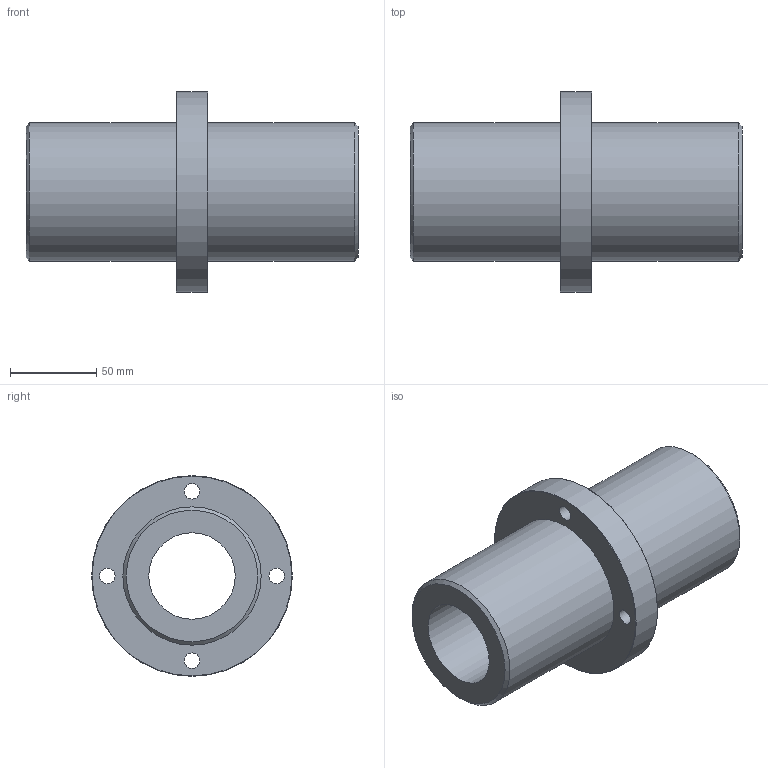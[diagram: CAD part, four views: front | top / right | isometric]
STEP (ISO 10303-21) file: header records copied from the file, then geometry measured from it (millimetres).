
FILE_DESCRIPTION(('STEP AP203'),'1');
FILE_NAME('//192.168.1.1/share/s-4 技術開発/s-4-4_CAD/s-4-4-3_見直し済み/PBC LINEAR修正済み/CFPJ/CFPJ_TOP/CFPJR/CFPJR50.step','2022-03-24T04:13:46',(' '),(' '),'Spatial InterOp 3D',' ',' ');
FILE_SCHEMA(('CONFIG_CONTROL_DESIGN'));
Length unit declared in the file: millimetre
Products named in the file (1): 1
Bounding box: 192 x 116 x 116 mm (x, y, z)
Volume: 679339.1 mm3; surface area: 98987.4 mm2
Topology: 1 solids, 1 shells, 24 faces, 50 edges, 34 vertices
Faces by surface type: cylinder 12, plane 8, cone 4
Full cylindrical faces by diameter (mm): 9 x4, 14 x4, 50 x1, 80 x2, 116 x1
Entity records: 588 total; most frequent: DIRECTION 106, CARTESIAN_POINT 81, EDGE_LOOP 56, ORIENTED_EDGE 56, AXIS2_PLACEMENT_3D 53, FACE_OUTER_BOUND 36, EDGE_CURVE 28, VERTEX_POINT 28
